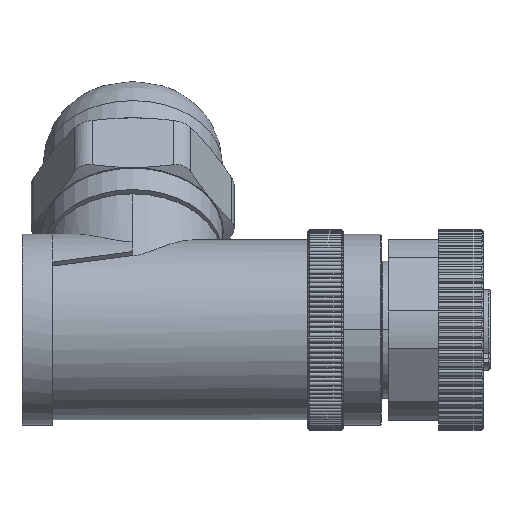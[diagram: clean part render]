
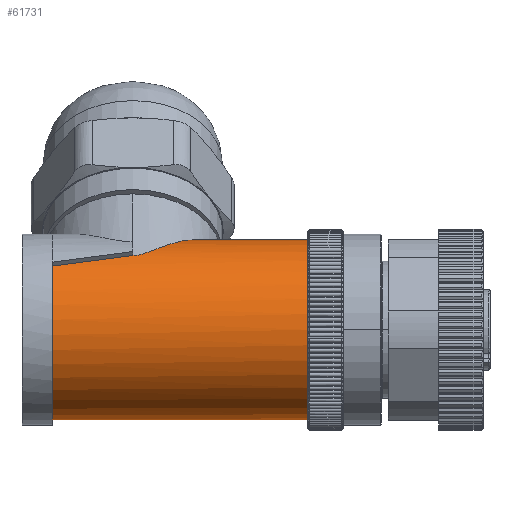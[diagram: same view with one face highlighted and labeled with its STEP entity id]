
A CAD part, left-side view. The second image highlights one B-rep face of the part: STEP entity #61731.
In plain terms, the highlighted cylindrical face has radius 8.95 mm (diameter 17.9 mm), a partial arc.
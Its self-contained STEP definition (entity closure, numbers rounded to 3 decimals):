
#17612=CARTESIAN_POINT('',(0.,5.1,0.));
#17613=DIRECTION('',(0.,-1.,0.));
#17614=DIRECTION('',(0.,0.,1.));
#17615=AXIS2_PLACEMENT_3D('',#17612,#17613,#17614);
#17617=DIRECTION('',(0.,-1.,0.));
#17618=VECTOR('',#17617,25.4);
#17619=CARTESIAN_POINT('',(0.,30.5,-8.95));
#17620=LINE('',#17619,#17618);
#17621=CARTESIAN_POINT('',(0.,30.5,0.));
#17622=DIRECTION('',(0.,1.,0.));
#17623=DIRECTION('',(0.,0.,-1.));
#17624=AXIS2_PLACEMENT_3D('',#17621,#17622,#17623);
#17626=CARTESIAN_POINT('',(-5.069,22.5,7.376));
#17627=CARTESIAN_POINT('',(-5.524,25.166,
7.063));
#17628=CARTESIAN_POINT('',(-5.944,27.832,
6.713));
#17629=CARTESIAN_POINT('',(-6.329,30.5,6.329));
#17631=CARTESIAN_POINT('',(-5.069,22.5,7.376));
#17632=CARTESIAN_POINT('',(-5.069,22.31,
7.376));
#17633=CARTESIAN_POINT('',(-5.012,21.924,
7.416));
#17634=CARTESIAN_POINT('',(-4.762,21.322,
7.581));
#17635=CARTESIAN_POINT('',(-4.398,20.717,
7.8));
#17636=CARTESIAN_POINT('',(-3.939,20.091,
8.043));
#17637=CARTESIAN_POINT('',(-3.387,19.434,
8.293));
#17638=CARTESIAN_POINT('',(-2.737,18.738,
8.532));
#17639=CARTESIAN_POINT('',(-1.974,17.997,
8.743));
#17640=CARTESIAN_POINT('',(-1.081,17.214,
8.902));
#17641=CARTESIAN_POINT('',(-0.379,16.662,
8.95));
#17642=CARTESIAN_POINT('',(0.,16.385,
8.95));
#17644=DIRECTION('',(0.,-1.,0.));
#17645=VECTOR('',#17644,11.285);
#17646=CARTESIAN_POINT('',(0.,16.385,
8.95));
#17647=LINE('',#17646,#17645);
#19699=CARTESIAN_POINT('',(0.,16.385,
8.95));
#38478=VERTEX_POINT('',#19699);
#38485=CARTESIAN_POINT('',(-6.329,30.5,6.329));
#38486=VERTEX_POINT('',#38485);
#38492=CARTESIAN_POINT('',(-5.069,22.5,7.376));
#38494=VERTEX_POINT('',#38492);
#38499=CARTESIAN_POINT('',(0.,30.5,-8.95));
#38500=VERTEX_POINT('',#38499);
#42315=CARTESIAN_POINT('',(0.,5.1,-8.95));
#42316=VERTEX_POINT('',#42315);
#42317=CARTESIAN_POINT('',(0.,5.1,8.95));
#42318=VERTEX_POINT('',#42317);
#61715=CARTESIAN_POINT('',(0.,33.5,0.));
#61716=DIRECTION('',(0.,-1.,0.));
#61717=DIRECTION('',(0.,0.,-1.));
#61718=AXIS2_PLACEMENT_3D('',#61715,#61716,#61717);
#61719=CYLINDRICAL_SURFACE('',#61718,8.95);
#61721=ORIENTED_EDGE('',*,*,#61720,.T.);
#61723=ORIENTED_EDGE('',*,*,#61722,.F.);
#61724=ORIENTED_EDGE('',*,*,#61599,.T.);
#61725=ORIENTED_EDGE('',*,*,#61573,.F.);
#61726=ORIENTED_EDGE('',*,*,#61532,.T.);
#61728=ORIENTED_EDGE('',*,*,#61727,.T.);
#61729=EDGE_LOOP('',(#61721,#61723,#61724,#61725,#61726,#61728));
#61730=FACE_OUTER_BOUND('',#61729,.F.);
#61731=ADVANCED_FACE('',(#61730),#61719,.T.);
#17616=CIRCLE('',#17615,8.95);
#17625=CIRCLE('',#17624,8.95);
#17630=B_SPLINE_CURVE_WITH_KNOTS('',3,(#17626,#17627,#17628,#17629),
.UNSPECIFIED.,.F.,.F.,(4,4),(0.,1.),.UNSPECIFIED.);
#17643=B_SPLINE_CURVE_WITH_KNOTS('',3,(#17631,#17632,#17633,#17634,#17635,
#17636,#17637,#17638,#17639,#17640,#17641,#17642),.UNSPECIFIED.,.F.,.F.,(4,1,1,
1,1,1,1,1,1,4),(0.,0.111,0.222,0.333,
0.444,0.556,0.667,0.778,
0.889,1.),.UNSPECIFIED.);
#61532=EDGE_CURVE('',#38494,#38478,#17643,.T.);
#61573=EDGE_CURVE('',#38494,#38486,#17630,.T.);
#61599=EDGE_CURVE('',#38500,#38486,#17625,.T.);
#61720=EDGE_CURVE('',#42318,#42316,#17616,.T.);
#61722=EDGE_CURVE('',#38500,#42316,#17620,.T.);
#61727=EDGE_CURVE('',#38478,#42318,#17647,.T.);
